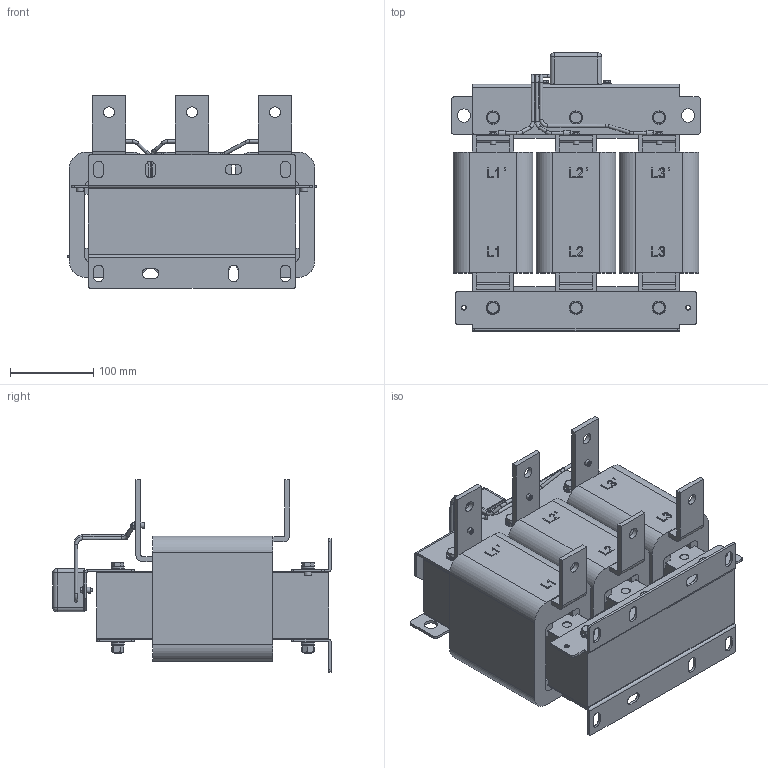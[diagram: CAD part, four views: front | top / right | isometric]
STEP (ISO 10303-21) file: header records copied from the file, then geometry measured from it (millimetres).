
FILE_DESCRIPTION(('STEP AP203'), '1');
FILE_NAME('IDUDT-185_390-4 _ dU_dt ôèëüòð 185 êÂò', '', ('UNSPECIFIED'), ('UNSPECIFIED'), 'C3D Converter', 'C3D Toolkit', '');
FILE_SCHEMA(('CONFIG_CONTROL_DESIGN'));
Length unit declared in the file: millimetre
Products named in the file (19): IDUDT-185/390-4
Assembly tree (75 placements, depth 2):
  IDUDT-185/390-4
    (unnamed)
    (unnamed)
    (unnamed)
    (unnamed)
    (unnamed)
    (unnamed)  x6
    (unnamed)  x24
    (unnamed)  x6
    (unnamed)  x6
    (unnamed)  x6
    (unnamed)
    (unnamed)  x5
    (unnamed)  x5
    (unnamed)  x3
    (unnamed)  x3
    (unnamed)  x3
    (unnamed)
    (unnamed)
Bounding box: 300 x 335 x 232 mm (x, y, z)
Volume: 8608903.1 mm3; surface area: 1192337.8 mm2
Topology: 91 solids, 91 shells, 1207 faces, 2770 edges, 1800 vertices
Faces by surface type: plane 747, cylinder 294, cone 122, bspline 27, torus 13, sphere 4
Full cylindrical faces by diameter (mm): 3 x8, 4 x26, 4.3 x3, 4.407 x3, 5 x2, 6.02 x3, 6.917 x6, 7 x5, 8 x6, 8.68 x6, 9 x31, 11 x30, 11.63 x6, 12.88 x6, 13 x6, 16 x26
Entity records: 39761 total; most frequent: CARTESIAN_POINT 16779, DIRECTION 3098, ORIENTED_EDGE 3048, EDGE_CURVE 1524, AXIS2_PLACEMENT_3D 1060, VERTEX_POINT 1059, LINE 978, VECTOR 978
